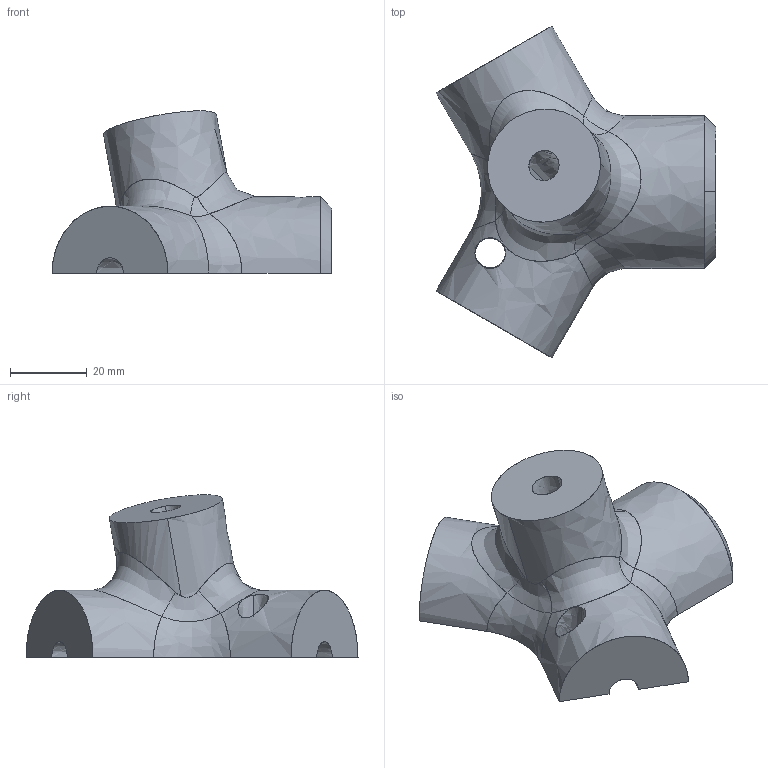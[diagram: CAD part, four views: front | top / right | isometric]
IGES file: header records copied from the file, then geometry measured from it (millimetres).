
Start section: 3D InterOp IGES (Version 26 1 0), Spatial Corp. Copyright (c) 1999-2007.
Global section: file name: _____.igs; native system: Spatial Corp.; preprocessor: 3D InterOp GENERIC/IGES 3.0; author: Noname; organization: Noname; date: 20210425.095402; units: millimetre
Bounding box: 73.16 x 86.78 x 42.45 mm (x, y, z)
Surface area: 14906.3 mm2 (no closed solid volume)
Topology: 0 solids, 0 shells, 40 faces, 264 edges, 264 vertices
Faces by surface type: bspline 40
